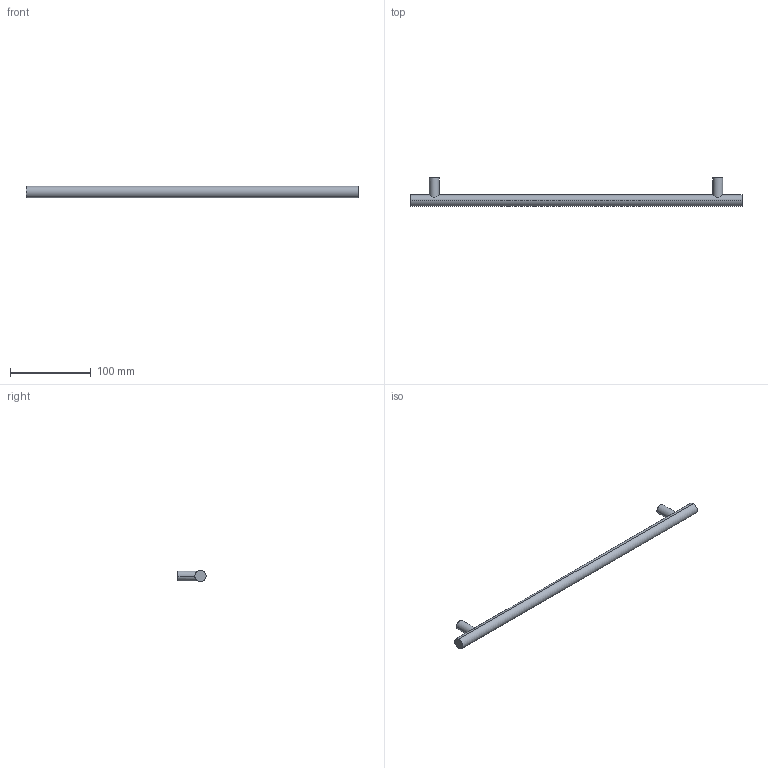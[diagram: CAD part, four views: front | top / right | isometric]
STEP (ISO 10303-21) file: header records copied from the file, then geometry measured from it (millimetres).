
FILE_DESCRIPTION( ( '' ), '1' );
FILE_NAME( 'D:/1.AUTOCAD EXPORT/Group 10/sheet_10_1/9071055.stp', '2013-10-21T10:16:37', ( '' ), ( '' ), ' ', ' ', ' ' );
FILE_SCHEMA( ( 'automotive_design' ) );
Length unit declared in the file: millimetre
Products named in the file (1): 1
Bounding box: 412 x 35 x 14 mm (x, y, z)
Volume: 68034.5 mm3; surface area: 20400.4 mm2
Topology: 1 solids, 1 shells, 16 faces, 32 edges, 22 vertices
Faces by surface type: cylinder 10, plane 6
Entity records: 972 total; most frequent: CARTESIAN_POINT 205, DIRECTION 76, STYLED_ITEM 71, PRESENTATION_STYLE_ASSIGNMENT 71, COLOUR_RGB 71, ORIENTED_EDGE 64, AXIS2_PLACEMENT_3D 33, EDGE_CURVE 32
